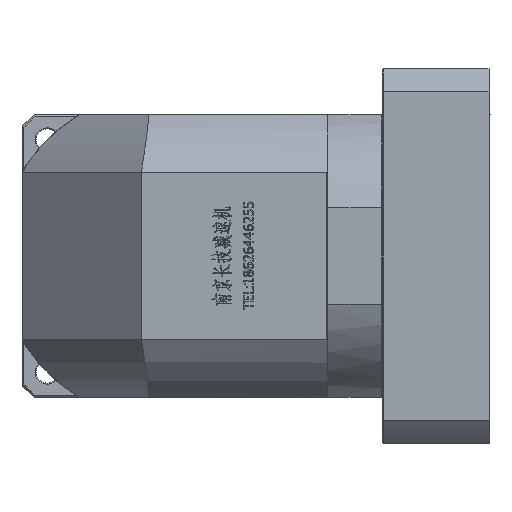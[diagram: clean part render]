
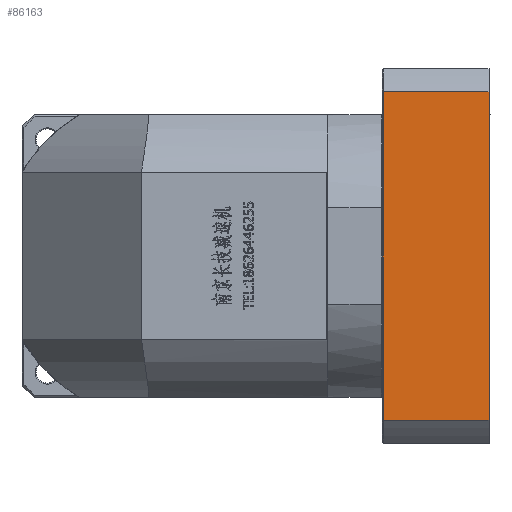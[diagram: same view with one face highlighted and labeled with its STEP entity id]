
A CAD part, left-side view. The second image highlights one B-rep face of the part: STEP entity #86163.
In plain terms, the highlighted planar face has unit normal (-1, 0, 0).
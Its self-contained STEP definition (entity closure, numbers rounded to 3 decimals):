
#8190 = DIRECTION ( 'NONE',  ( 0., 1., 0. ) ) ;
#10087 = DIRECTION ( 'NONE',  ( 1., 0., 0. ) ) ;
#13196 = DIRECTION ( 'NONE',  ( 0., 0., -1. ) ) ;
#15287 = DIRECTION ( 'NONE',  ( 0., -1., 0. ) ) ;
#23262 = CARTESIAN_POINT ( 'NONE',  ( -334.551, 396.603, -117.562 ) ) ;
#23361 = CARTESIAN_POINT ( 'NONE',  ( -334.551, -13.986, -129.167 ) ) ;
#24046 = EDGE_CURVE ( 'NONE', #118177, #58594, #49454, .T. ) ;
#29176 = EDGE_CURVE ( 'NONE', #42938, #66608, #82772, .T. ) ;
#36371 = PLANE ( 'NONE',  #40214 ) ;
#40214 = AXIS2_PLACEMENT_3D ( 'NONE', #147015, #10087, #142904 ) ;
#42938 = VERTEX_POINT ( 'NONE', #79053 ) ;
#49454 = LINE ( 'NONE', #23361, #83140 ) ;
#49658 = ORIENTED_EDGE ( 'NONE', *, *, #24046, .F. ) ;
#54807 = VECTOR ( 'NONE', #8190, 1000. ) ;
#58594 = VERTEX_POINT ( 'NONE', #77047 ) ;
#66608 = VERTEX_POINT ( 'NONE', #165336 ) ;
#73072 = EDGE_CURVE ( 'NONE', #42938, #118177, #84358, .T. ) ;
#77047 = CARTESIAN_POINT ( 'NONE',  ( -334.551, -13.986, -117.562 ) ) ;
#79053 = CARTESIAN_POINT ( 'NONE',  ( -334.551, 39.014, 47.229 ) ) ;
#82772 = LINE ( 'NONE', #132029, #166559 ) ;
#83140 = VECTOR ( 'NONE', #117073, 1000. ) ;
#84358 = LINE ( 'NONE', #109552, #168119 ) ;
#86163 = ADVANCED_FACE ( 'NONE', ( #133776 ), #36371, .F. ) ;
#109552 = CARTESIAN_POINT ( 'NONE',  ( -334.551, -14.486, 47.229 ) ) ;
#117073 = DIRECTION ( 'NONE',  ( 0., 0., -1. ) ) ;
#118177 = VERTEX_POINT ( 'NONE', #161241 ) ;
#119758 = ORIENTED_EDGE ( 'NONE', *, *, #29176, .T. ) ;
#120976 = ORIENTED_EDGE ( 'NONE', *, *, #130556, .F. ) ;
#122233 = EDGE_LOOP ( 'NONE', ( #170923, #119758, #120976, #49658 ) ) ;
#130556 = EDGE_CURVE ( 'NONE', #58594, #66608, #134462, .T. ) ;
#132029 = CARTESIAN_POINT ( 'NONE',  ( -334.551, 39.014, -129.167 ) ) ;
#133776 = FACE_OUTER_BOUND ( 'NONE', #122233, .T. ) ;
#134462 = LINE ( 'NONE', #23262, #54807 ) ;
#142904 = DIRECTION ( 'NONE',  ( 0., 1., 0. ) ) ;
#147015 = CARTESIAN_POINT ( 'NONE',  ( -334.551, -14.486, -129.167 ) ) ;
#161241 = CARTESIAN_POINT ( 'NONE',  ( -334.551, -13.986, 47.229 ) ) ;
#165336 = CARTESIAN_POINT ( 'NONE',  ( -334.551, 39.014, -117.562 ) ) ;
#166559 = VECTOR ( 'NONE', #13196, 1000. ) ;
#168119 = VECTOR ( 'NONE', #15287, 1000. ) ;
#170923 = ORIENTED_EDGE ( 'NONE', *, *, #73072, .F. ) ;
